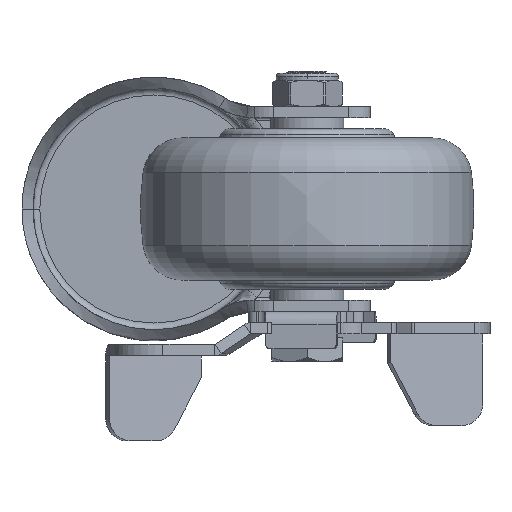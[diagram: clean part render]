
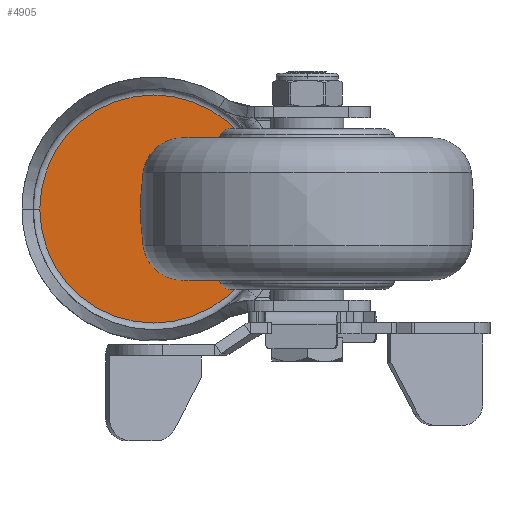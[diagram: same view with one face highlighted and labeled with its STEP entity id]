
A CAD part, front view. The second image highlights one B-rep face of the part: STEP entity #4905.
In plain terms, the highlighted planar face has unit normal (0, -1, 0).
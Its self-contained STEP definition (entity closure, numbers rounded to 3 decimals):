
#888=CARTESIAN_POINT('',(0.,-14.3,0.));
#889=DIRECTION('',(0.,1.,0.));
#890=DIRECTION('',(-1.,0.,0.));
#891=AXIS2_PLACEMENT_3D('',#888,#889,#890);
#893=CARTESIAN_POINT('',(0.,-14.3,0.));
#894=DIRECTION('',(0.,-1.,0.));
#895=DIRECTION('',(-1.,0.,0.));
#896=AXIS2_PLACEMENT_3D('',#893,#894,#895);
#2983=CARTESIAN_POINT('',(-25.652,-14.3,0.));
#2985=VERTEX_POINT('',#2983);
#2987=CARTESIAN_POINT('',(25.652,-14.3,0.));
#2989=VERTEX_POINT('',#2987);
#4896=CARTESIAN_POINT('',(0.,-14.3,0.));
#4897=DIRECTION('',(0.,-1.,0.));
#4898=DIRECTION('',(-1.,0.,0.));
#4899=AXIS2_PLACEMENT_3D('',#4896,#4897,#4898);
#4900=PLANE('',#4899);
#4901=ORIENTED_EDGE('',*,*,#4878,.T.);
#4902=ORIENTED_EDGE('',*,*,#4889,.F.);
#4903=EDGE_LOOP('',(#4901,#4902));
#4904=FACE_OUTER_BOUND('',#4903,.F.);
#892=CIRCLE('',#891,25.652);
#897=CIRCLE('',#896,25.652);
#4878=EDGE_CURVE('',#2985,#2989,#892,.T.);
#4889=EDGE_CURVE('',#2985,#2989,#897,.T.);
#4905=ADVANCED_FACE('',(#4904),#4900,.T.);
